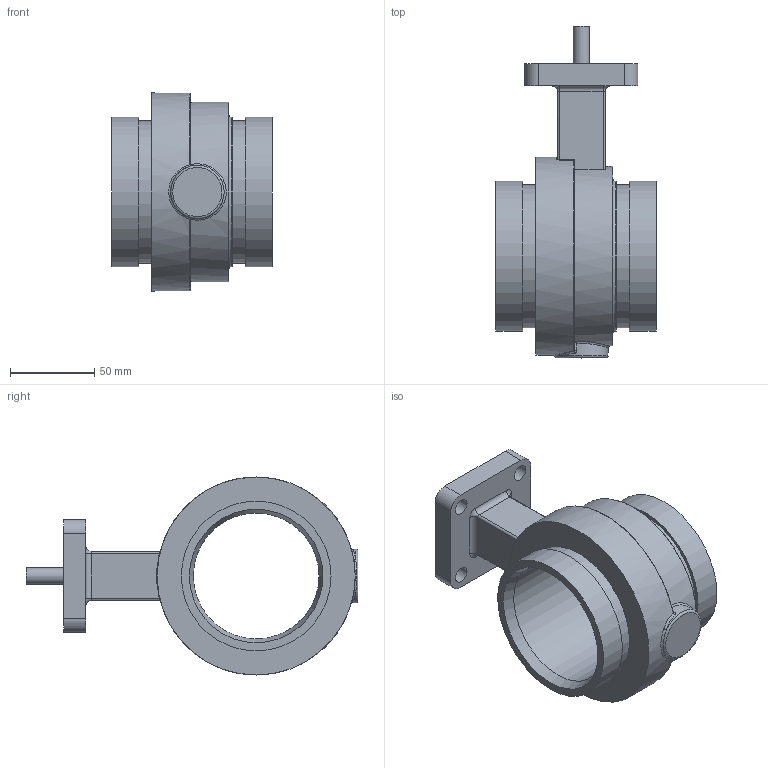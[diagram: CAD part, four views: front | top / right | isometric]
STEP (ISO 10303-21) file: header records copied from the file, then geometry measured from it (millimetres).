
FILE_DESCRIPTION(/* description */ ('Vic Series 461 Vic-300 MasterSeal SS Butterfly Valve','CAx-IF Rec.Pracs.---Representation and Presentation of Product Manufacturing Information (PMI)---4.0---2014-10-13'),/* implementation_level */ '2;1');
FILE_NAME(/* name */ 'C:\Users\kkamble\AppData\Roaming\Autodesk\ApplicationPlugins\Back Up\Victaulic_SS-OGS_Valve Butterfly Vic-300 Masterseal Bare_Series 461 (OGS)\Victaulic_SS-OGS_Valve Butterfly Vic-300 Masterseal Bare_Series 461 (OGS)_3 (80).stp',/* time_stamp */ '2020-09-02T14:48:18+05:00',/* author */ ('mchristi'),/* organization */ ('Victaulic'),/* preprocessor_version */ 'ST-DEVELOPER v17.2',/* originating_system */ 'Autodesk Inventor 2019',/* authorisation */ '');
FILE_SCHEMA (('AP242_MANAGED_MODEL_BASED_3D_ENGINEERING_MIM_LF { 1 0 10303 442 1 1 4 }'));
Length unit declared in the file: inch
Products named in the file (1): 461-03.0
Bounding box: 95.25 x 197.1 x 117.6 mm (x, y, z)
Volume: 423304.6 mm3; surface area: 84332.3 mm2
Topology: 1 solids, 1 shells, 90 faces, 221 edges, 139 vertices
Faces by surface type: cylinder 35, plane 22, bspline 16, torus 13, sphere 2, cone 2
Full cylindrical faces by diameter (mm): 9.652 x5, 54.102 x1, 74.676 x1, 84.938 x2, 88.9 x3, 106.68 x1, 117.602 x1
Entity records: 3425 total; most frequent: CARTESIAN_POINT 1092, DIRECTION 480, ORIENTED_EDGE 438, EDGE_CURVE 219, AXIS2_PLACEMENT_3D 208, VERTEX_POINT 139, CIRCLE 120, EDGE_LOOP 108
